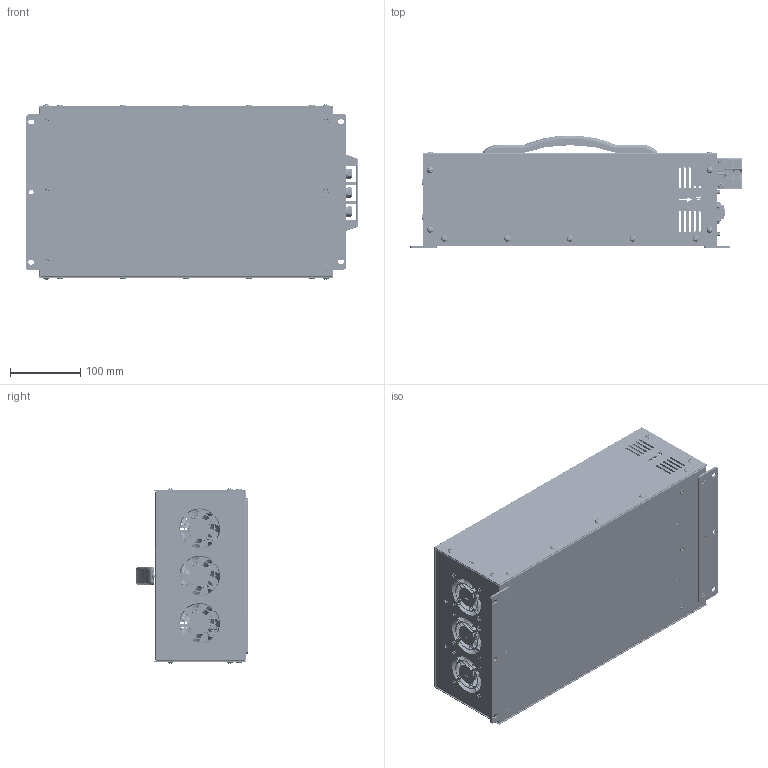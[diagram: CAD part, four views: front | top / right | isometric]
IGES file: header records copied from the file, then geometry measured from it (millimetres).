
Global section: file name: VX3COM_OLED_HANDLE1_2026.06.11_단순화_1; native system: Autodesk Inventor 2026; preprocessor: unknown; author: Administrator; date: 20260611.150041; units: millimetre
Bounding box: 473.7 x 160.83 x 250.09 mm (x, y, z)
Volume: 815960.1 mm3; surface area: 986671.3 mm2
Topology: 14 solids, 14 shells, 9103 faces, 24880 edges, 16350 vertices
Faces by surface type: bspline 9103
